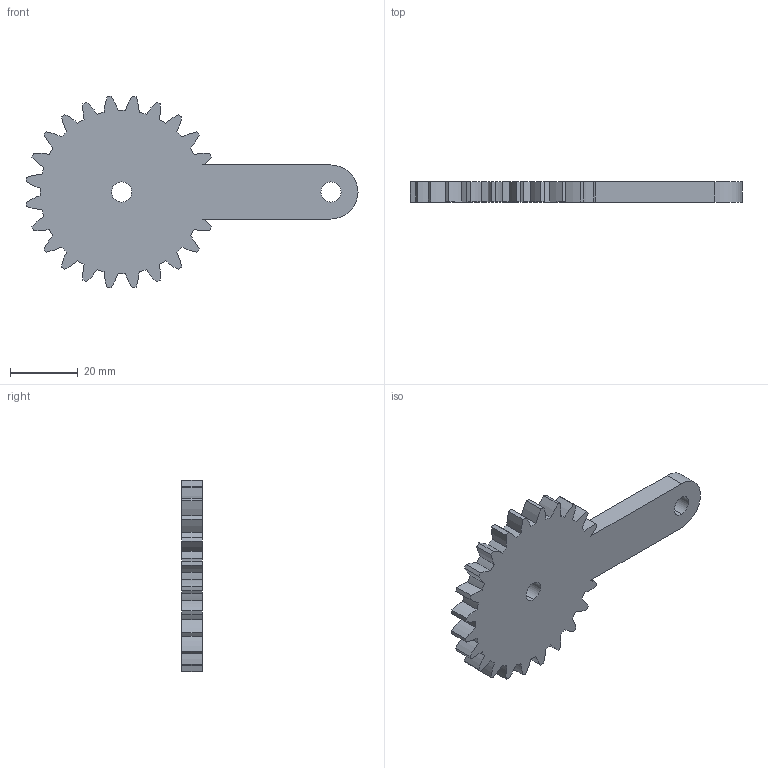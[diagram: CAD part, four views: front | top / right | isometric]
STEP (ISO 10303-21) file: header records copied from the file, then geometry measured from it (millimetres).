
FILE_DESCRIPTION (( 'STEP AP214' ), '1' );
FILE_NAME ('Gear Link 1.STEP', '2026-04-30T16:21:41', ( '' ), ( '' ), 'SwSTEP 2.0', 'SolidWorks 2022', '' );
FILE_SCHEMA (( 'AUTOMOTIVE_DESIGN' ));
Length unit declared in the file: millimetre
Products named in the file (1): Gear Link 1
Bounding box: 98.33 x 6 x 56.66 mm (x, y, z)
Volume: 16614.5 mm3; surface area: 8018.8 mm2
Topology: 1 solids, 1 shells, 97 faces, 285 edges, 190 vertices
Faces by surface type: cylinder 49, bspline 44, plane 4
Entity records: 3563 total; most frequent: CARTESIAN_POINT 1145, ORIENTED_EDGE 570, DIRECTION 403, EDGE_CURVE 285, VERTEX_POINT 190, AXIS2_PLACEMENT_3D 152, EDGE_LOOP 101, LINE 99
